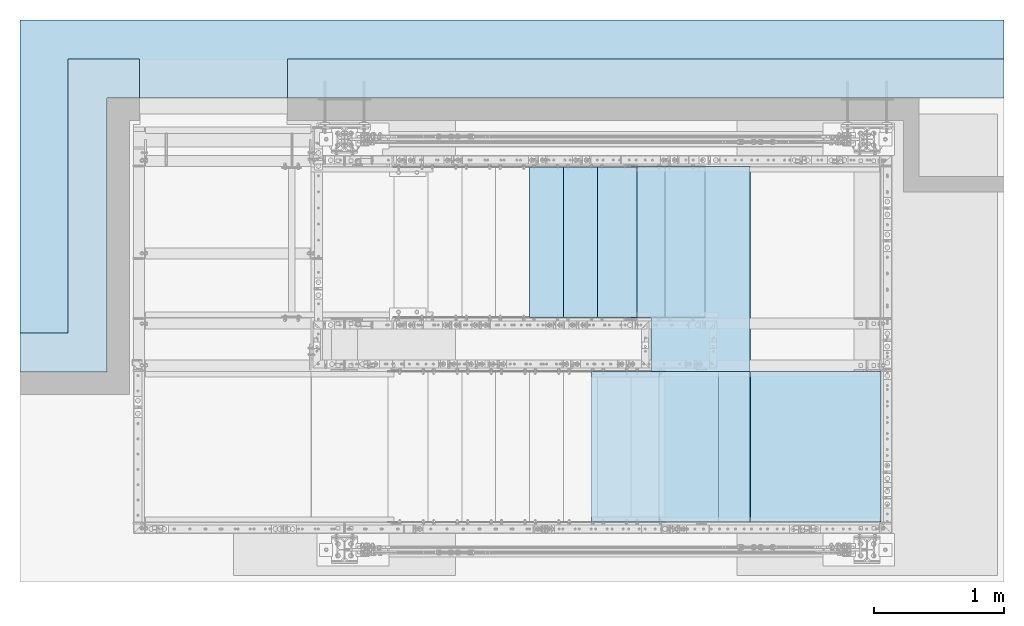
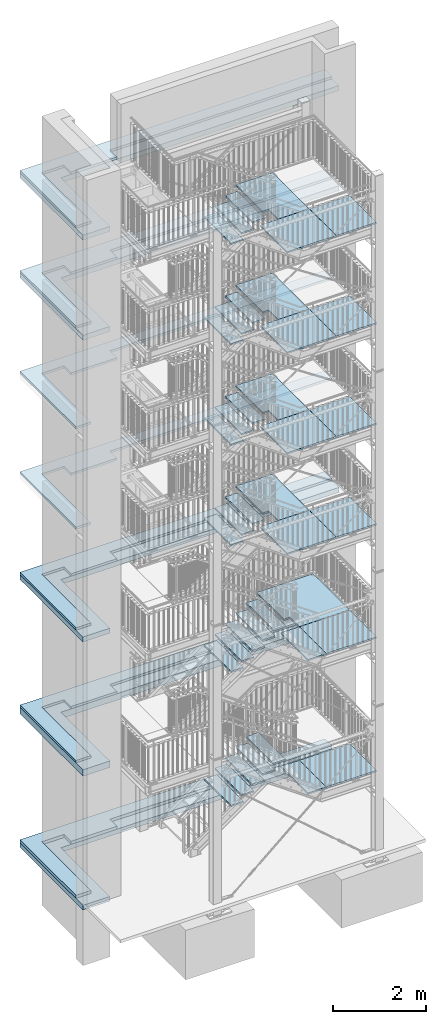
# One storey, part 143 of 821: 39 plates, 12 slabs, 13 openings.
"""IFC2X3 building model written with IfcOpenShell, lengths in millimetres."""

from ifc_helpers import new_model, entity, si_unit, converted_unit, frame, origin, origin_with_axes, place, context, project, spatial, polyline, outline, extrude, material, layer, layer_set, element, save


model = new_model("IFC2X3")

# Units and contexts
model_context = context("Model", 3, precision=1e-09, world=origin_with_axes())
ifc_project = project(units=[si_unit("LENGTHUNIT", "METRE", prefix="MILLI"), si_unit("AREAUNIT", "SQUARE_METRE"), si_unit("VOLUMEUNIT", "CUBIC_METRE"), converted_unit("PLANEANGLEUNIT", "DEGREE", entity("IfcPlaneAngleMeasure", 0.01745329), si_unit("PLANEANGLEUNIT", "RADIAN"), dimensions=[0, 0, 0, 0, 0, 0, 0])], contexts=[model_context])

# Site, building, storey
site_placement = place(None, origin_with_axes())
site = spatial("IfcSite", under=ifc_project, at=site_placement, Name="Cnopf'sche Kinderklinik", CompositionType="ELEMENT")
building_placement = place(site_placement, origin_with_axes())
building = spatial("IfcBuilding", under=site, at=building_placement, Name="Struktur 1", CompositionType="ELEMENT")
storey_placement = place(building_placement, origin_with_axes())
storey = spatial("IfcBuildingStorey", under=building, at=storey_placement, Name="Default Storey", CompositionType="ELEMENT", Elevation=0.0)

# Plates
ifc_material_1 = material(Name="S235JR")
ifc_layer_1 = layer(ifc_material_1, 40.0)
ifc_layer_set_1 = layer_set([ifc_layer_1], Name="S235JR")
plate_1_placement = place(None, frame((6429.213402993, 6726.736971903, 10702.571429), z_axis=(0.0, 0.0, 1.0), x_axis=(0.0, 1.0, 0.0)))
element("IfcPlate", 1, at=plate_1_placement, inside=storey, material=ifc_layer_set_1, Name="Grate_Step#22", ObjectType="Grate_Step#22", context=model_context, shape_type="SweptSolid", body=[
    extrude(outline(polyline([(-577.0, -152.5), (577.0, -152.5), (577.0, 152.5), (-577.0, 152.5), (-577.0, -152.5)])), origin_with_axes(), (0.0, 0.0, 1.0), 40.0),
])
plate_2_placement = place(None, frame((6949.213402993, 6726.736971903, 11077.8571432), z_axis=(0.0, 0.0, 1.0), x_axis=(0.0, 1.0, 0.0)))
element("IfcPlate", 2, at=plate_2_placement, inside=storey, material=ifc_layer_set_1, Name="Grate_Step#36", ObjectType="Grate_Step#36", context=model_context, shape_type="SweptSolid", body=[
    extrude(outline(polyline([(-577.0, -152.5), (577.0, -152.5), (577.0, 152.5), (-577.0, 152.5), (-577.0, -152.5)])), origin_with_axes(), (0.0, 0.0, 1.0), 40.0),
])
plate_3_placement = place(None, frame((6689.213402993, 6726.736971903, 10890.2142861), z_axis=(0.0, 0.0, 1.0), x_axis=(0.0, 1.0, 0.0)))
element("IfcPlate", 3, at=plate_3_placement, inside=storey, material=ifc_layer_set_1, Name="Grate_Step#29", ObjectType="Grate_Step#29", context=model_context, shape_type="SweptSolid", body=[
    extrude(outline(polyline([(-577.0, -152.5), (577.0, -152.5), (577.0, 152.5), (-577.0, 152.5), (-577.0, -152.5)])), origin_with_axes(), (0.0, 0.0, 1.0), 40.0),
])
plate_4_placement = place(None, frame((6429.213402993, 6726.736971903, 8072.0), z_axis=(0.0, 0.0, 1.0), x_axis=(0.0, 1.0, 0.0)))
element("IfcPlate", 4, at=plate_4_placement, inside=storey, material=ifc_layer_set_1, Name="Grate_Step#22", ObjectType="Grate_Step#22", context=model_context, shape_type="SweptSolid", body=[
    extrude(outline(polyline([(-577.0, -152.5), (577.0, -152.5), (577.0, 152.5), (-577.0, 152.5), (-577.0, -152.5)])), origin_with_axes(), (0.0, 0.0, 1.0), 40.0),
])
plate_5_placement = place(None, frame((6689.213402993, 6726.736971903, 8260.0), z_axis=(0.0, 0.0, 1.0), x_axis=(0.0, 1.0, 0.0)))
element("IfcPlate", 5, at=plate_5_placement, inside=storey, material=ifc_layer_set_1, Name="Grate_Step#29", ObjectType="Grate_Step#29", context=model_context, shape_type="SweptSolid", body=[
    extrude(outline(polyline([(-577.0, -152.5), (577.0, -152.5), (577.0, 152.5), (-577.0, 152.5), (-577.0, -152.5)])), origin_with_axes(), (0.0, 0.0, 1.0), 40.0),
])
plate_6_placement = place(None, frame((6949.213402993, 6726.736971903, 8448.0), z_axis=(0.0, 0.0, 1.0), x_axis=(0.0, 1.0, 0.0)))
element("IfcPlate", 6, at=plate_6_placement, inside=storey, material=ifc_layer_set_1, Name="Grate_Step#36", ObjectType="Grate_Step#36", context=model_context, shape_type="SweptSolid", body=[
    extrude(outline(polyline([(-577.0, -152.5), (577.0, -152.5), (577.0, 152.5), (-577.0, 152.5), (-577.0, -152.5)])), origin_with_axes(), (0.0, 0.0, 1.0), 40.0),
])
plate_7_placement = place(None, frame((6429.213402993, 6726.736971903, 13331.857143), z_axis=(0.0, 0.0, 1.0), x_axis=(0.0, 1.0, 0.0)))
element("IfcPlate", 7, at=plate_7_placement, inside=storey, material=ifc_layer_set_1, Name="Grate_Step#22", ObjectType="Grate_Step#22", context=model_context, shape_type="SweptSolid", body=[
    extrude(outline(polyline([(-577.0, -152.5), (577.0, -152.5), (577.0, 152.5), (-577.0, 152.5), (-577.0, -152.5)])), origin_with_axes(), (0.0, 0.0, 1.0), 40.0),
])
plate_8_placement = place(None, frame((6689.213402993, 6726.736971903, 13520.0714287), z_axis=(0.0, 0.0, 1.0), x_axis=(0.0, 1.0, 0.0)))
element("IfcPlate", 8, at=plate_8_placement, inside=storey, material=ifc_layer_set_1, Name="Grate_Step#29", ObjectType="Grate_Step#29", context=model_context, shape_type="SweptSolid", body=[
    extrude(outline(polyline([(-577.0, -152.5), (577.0, -152.5), (577.0, 152.5), (-577.0, 152.5), (-577.0, -152.5)])), origin_with_axes(), (0.0, 0.0, 1.0), 40.0),
])
plate_9_placement = place(None, frame((6949.213402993, 6726.736971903, 13708.2857144), z_axis=(0.0, 0.0, 1.0), x_axis=(0.0, 1.0, 0.0)))
element("IfcPlate", 9, at=plate_9_placement, inside=storey, material=ifc_layer_set_1, Name="Grate_Step#36", ObjectType="Grate_Step#36", context=model_context, shape_type="SweptSolid", body=[
    extrude(outline(polyline([(-577.0, -152.5), (577.0, -152.5), (577.0, 152.5), (-577.0, 152.5), (-577.0, -152.5)])), origin_with_axes(), (0.0, 0.0, 1.0), 40.0),
])
plate_10_placement = place(None, frame((6429.213402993, 6726.736971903, 15962.571429), z_axis=(0.0, 0.0, 1.0), x_axis=(0.0, 1.0, 0.0)))
element("IfcPlate", 10, at=plate_10_placement, inside=storey, material=ifc_layer_set_1, Name="Grate_Step#22", ObjectType="Grate_Step#22", context=model_context, shape_type="SweptSolid", body=[
    extrude(outline(polyline([(-577.0, -152.5), (577.0, -152.5), (577.0, 152.5), (-577.0, 152.5), (-577.0, -152.5)])), origin_with_axes(), (0.0, 0.0, 1.0), 40.0),
])
plate_11_placement = place(None, frame((6689.213402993, 6726.736971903, 16149.7142861), z_axis=(0.0, 0.0, 1.0), x_axis=(0.0, 1.0, 0.0)))
element("IfcPlate", 11, at=plate_11_placement, inside=storey, material=ifc_layer_set_1, Name="Grate_Step#29", ObjectType="Grate_Step#29", context=model_context, shape_type="SweptSolid", body=[
    extrude(outline(polyline([(-577.0, -152.5), (577.0, -152.5), (577.0, 152.5), (-577.0, 152.5), (-577.0, -152.5)])), origin_with_axes(), (0.0, 0.0, 1.0), 40.0),
])
plate_12_placement = place(None, frame((6949.213402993, 6726.736971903, 16336.8571432), z_axis=(0.0, 0.0, 1.0), x_axis=(0.0, 1.0, 0.0)))
element("IfcPlate", 12, at=plate_12_placement, inside=storey, material=ifc_layer_set_1, Name="Grate_Step#36", ObjectType="Grate_Step#36", context=model_context, shape_type="SweptSolid", body=[
    extrude(outline(polyline([(-577.0, -152.5), (577.0, -152.5), (577.0, 152.5), (-577.0, 152.5), (-577.0, -152.5)])), origin_with_axes(), (0.0, 0.0, 1.0), 40.0),
])

# Plate, opening
plate_13_placement = place(None, frame((7576.713402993, 6146.736971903, 5674.8947367), z_axis=(0.0, 0.0, 1.0), x_axis=(1.0, 0.0, 0.0)))
plate_13 = element("IfcPlate", 13, at=plate_13_placement, inside=storey, material=ifc_layer_set_1, Name="TopCoverGrate", ObjectType="TopCoverGrate", context=model_context, shape_type="SweptSolid", body=[
    extrude(outline(polyline([(0.0, -410.0), (1395.0, -410.0), (1395.0, 1160.0), (0.0, 1160.0), (0.0, -410.0)])), origin_with_axes(), (0.0, 0.0, 1.0), 40.0),
])
opening_1_placement = place(plate_13_placement, frame((0.0, 0.0, -0.1), z_axis=(0.0, 0.0, 1.0), x_axis=(-1.0, 0.0, 0.0)))
element("IfcOpeningElement", 14, at=opening_1_placement, cuts=plate_13, ObjectType="Opening", context=model_context, shape_type="SweptSolid", body=[
    extrude(outline(polyline([(-150.001, -0.001), (141.813694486, -0.001), (141.813694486, 522.421449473), (-150.001, 522.421449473), (-150.001, -0.001)])), origin(), (0.0, 0.0, 1.0), 40.2),
])

# Plates
plate_14_placement = place(None, frame((6429.213402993, 6726.736971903, 1255.5263152), z_axis=(0.0, 0.0, 1.0), x_axis=(0.0, 1.0, 0.0)))
element("IfcPlate", 15, at=plate_14_placement, inside=storey, material=ifc_layer_set_1, Name="Grate_Step#29", ObjectType="Grate_Step#29", context=model_context, shape_type="SweptSolid", body=[
    extrude(outline(polyline([(-577.0, -152.5), (577.0, -152.5), (577.0, 152.5), (-577.0, 152.5), (-577.0, -152.5)])), origin_with_axes(), (0.0, 0.0, 1.0), 40.0),
])
plate_15_placement = place(None, frame((6949.213402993, 6726.736971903, 1625.7368416), z_axis=(0.0, 0.0, 1.0), x_axis=(0.0, 1.0, 0.0)))
element("IfcPlate", 16, at=plate_15_placement, inside=storey, material=ifc_layer_set_1, Name="Grate_Step#43", ObjectType="Grate_Step#43", context=model_context, shape_type="SweptSolid", body=[
    extrude(outline(polyline([(-577.0, -152.5), (577.0, -152.5), (577.0, 152.5), (-577.0, 152.5), (-577.0, -152.5)])), origin_with_axes(), (0.0, 0.0, 1.0), 40.0),
])
plate_16_placement = place(None, frame((6689.213402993, 6726.736971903, 4943.7368419), z_axis=(0.0, 0.0, 1.0), x_axis=(0.0, 1.0, 0.0)))
element("IfcPlate", 17, at=plate_16_placement, inside=storey, material=ifc_layer_set_1, Name="Grate_Step#36", ObjectType="Grate_Step#36", context=model_context, shape_type="SweptSolid", body=[
    extrude(outline(polyline([(-577.0, -152.5), (577.0, -152.5), (577.0, 152.5), (-577.0, 152.5), (-577.0, -152.5)])), origin_with_axes(), (0.0, 0.0, 1.0), 40.0),
])
plate_17_placement = place(None, frame((7469.213402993, 6726.736971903, 1995.947368), z_axis=(0.0, 0.0, 1.0), x_axis=(0.0, 1.0, 0.0)))
element("IfcPlate", 18, at=plate_17_placement, inside=storey, material=ifc_layer_set_1, Name="Grate_Step#57", ObjectType="Grate_Step#57", context=model_context, shape_type="SweptSolid", body=[
    extrude(outline(polyline([(-577.0, -152.5), (577.0, -152.5), (577.0, 152.5), (-577.0, 152.5), (-577.0, -152.5)])), origin_with_axes(), (0.0, 0.0, 1.0), 40.0),
])
plate_18_placement = place(None, frame((7209.213402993, 6726.736971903, 5309.3157893), z_axis=(0.0, 0.0, 1.0), x_axis=(0.0, 1.0, 0.0)))
element("IfcPlate", 19, at=plate_18_placement, inside=storey, material=ifc_layer_set_1, Name="Grate_Step#50", ObjectType="Grate_Step#50", context=model_context, shape_type="SweptSolid", body=[
    extrude(outline(polyline([(-577.0, -152.5), (577.0, -152.5), (577.0, 152.5), (-577.0, 152.5), (-577.0, -152.5)])), origin_with_axes(), (0.0, 0.0, 1.0), 40.0),
])
plate_19_placement = place(None, frame((6429.213402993, 6726.736971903, 4760.9473682), z_axis=(0.0, 0.0, 1.0), x_axis=(0.0, 1.0, 0.0)))
element("IfcPlate", 20, at=plate_19_placement, inside=storey, material=ifc_layer_set_1, Name="Grate_Step#29", ObjectType="Grate_Step#29", context=model_context, shape_type="SweptSolid", body=[
    extrude(outline(polyline([(-577.0, -152.5), (577.0, -152.5), (577.0, 152.5), (-577.0, 152.5), (-577.0, -152.5)])), origin_with_axes(), (0.0, 0.0, 1.0), 40.0),
])
plate_20_placement = place(None, frame((6949.213402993, 6726.736971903, 5126.5263156), z_axis=(0.0, 0.0, 1.0), x_axis=(0.0, 1.0, 0.0)))
element("IfcPlate", 21, at=plate_20_placement, inside=storey, material=ifc_layer_set_1, Name="Grate_Step#43", ObjectType="Grate_Step#43", context=model_context, shape_type="SweptSolid", body=[
    extrude(outline(polyline([(-577.0, -152.5), (577.0, -152.5), (577.0, 152.5), (-577.0, 152.5), (-577.0, -152.5)])), origin_with_axes(), (0.0, 0.0, 1.0), 40.0),
])
plate_21_placement = place(None, frame((7469.213402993, 6726.736971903, 5492.105263), z_axis=(0.0, 0.0, 1.0), x_axis=(0.0, 1.0, 0.0)))
element("IfcPlate", 22, at=plate_21_placement, inside=storey, material=ifc_layer_set_1, Name="Grate_Step#57", ObjectType="Grate_Step#57", context=model_context, shape_type="SweptSolid", body=[
    extrude(outline(polyline([(-577.0, -152.5), (577.0, -152.5), (577.0, 152.5), (-577.0, 152.5), (-577.0, -152.5)])), origin_with_axes(), (0.0, 0.0, 1.0), 40.0),
])
plate_22_placement = place(None, frame((6689.213402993, 6726.736971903, 1440.6315784), z_axis=(0.0, 0.0, 1.0), x_axis=(0.0, 1.0, 0.0)))
element("IfcPlate", 23, at=plate_22_placement, inside=storey, material=ifc_layer_set_1, Name="Grate_Step#36", ObjectType="Grate_Step#36", context=model_context, shape_type="SweptSolid", body=[
    extrude(outline(polyline([(-577.0, -152.5), (577.0, -152.5), (577.0, 152.5), (-577.0, 152.5), (-577.0, -152.5)])), origin_with_axes(), (0.0, 0.0, 1.0), 40.0),
])
plate_23_placement = place(None, frame((7209.213402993, 6726.736971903, 1810.8421048), z_axis=(0.0, 0.0, 1.0), x_axis=(0.0, 1.0, 0.0)))
element("IfcPlate", 24, at=plate_23_placement, inside=storey, material=ifc_layer_set_1, Name="Grate_Step#50", ObjectType="Grate_Step#50", context=model_context, shape_type="SweptSolid", body=[
    extrude(outline(polyline([(-577.0, -152.5), (577.0, -152.5), (577.0, 152.5), (-577.0, 152.5), (-577.0, -152.5)])), origin_with_axes(), (0.0, 0.0, 1.0), 40.0),
])
plate_24_placement = place(None, frame((7271.713402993, 5734.736971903, 2221.0526312), z_axis=(0.0, 0.0, -1.0), x_axis=(1.0, 0.0, 0.0)))
element("IfcPlate", 25, at=plate_24_placement, inside=storey, material=ifc_layer_set_1, Name="BottomCoverGrate", ObjectType="BottomCoverGrate", context=model_context, shape_type="SweptSolid", body=[
    extrude(outline(polyline([(453.001, 0.0), (453.001, 1156.0), (0.0, 1156.0), (0.0, 0.0), (453.001, 0.0)])), origin_with_axes(), (0.0, 0.0, 1.0), 40.0),
])
plate_25_placement = place(None, frame((7271.713402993, 5734.736971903, 2221.0526312), z_axis=(0.0, 0.0, -1.0), x_axis=(1.0, 0.0, 0.0)))
element("IfcPlate", 26, at=plate_25_placement, inside=storey, material=ifc_layer_set_1, Name="BottomCoverGrate", ObjectType="BottomCoverGrate", context=model_context, shape_type="SweptSolid", body=[
    extrude(outline(polyline([(455.001, 0.0), (1700.0, 0.0), (1700.0, 1156.0), (455.001, 1156.0), (455.001, 0.0)])), origin_with_axes(), (0.0, 0.0, 1.0), 40.0),
])
plate_26_placement = place(None, frame((7271.713402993, 5734.736971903, 5714.8947367), z_axis=(0.0, 0.0, -1.0), x_axis=(1.0, 0.0, 0.0)))
element("IfcPlate", 27, at=plate_26_placement, inside=storey, material=ifc_layer_set_1, Name="BottomCoverGrate", ObjectType="BottomCoverGrate", context=model_context, shape_type="SweptSolid", body=[
    extrude(outline(polyline([(453.0, 0.0), (453.0, 1156.0), (0.0, 1156.0), (0.0, 0.0), (453.0, 0.0)])), origin_with_axes(), (0.0, 0.0, 1.0), 40.0),
])
plate_27_placement = place(None, frame((7271.713402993, 5734.736971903, 5714.8947367), z_axis=(0.0, 0.0, -1.0), x_axis=(1.0, 0.0, 0.0)))
element("IfcPlate", 28, at=plate_27_placement, inside=storey, material=ifc_layer_set_1, Name="BottomCoverGrate", ObjectType="BottomCoverGrate", context=model_context, shape_type="SweptSolid", body=[
    extrude(outline(polyline([(455.0, 0.0), (1700.0, 0.0), (1700.0, 1156.0), (455.0, 1156.0), (455.0, 0.0)])), origin_with_axes(), (0.0, 0.0, 1.0), 40.0),
])
plate_28_placement = place(None, frame((7056.713402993, 6146.736971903, 8636.0), z_axis=(0.0, 0.0, 1.0), x_axis=(1.0, 0.0, 0.0)))
element("IfcPlate", 29, at=plate_28_placement, inside=storey, material=ifc_layer_set_1, Name="TopCoverGrate", ObjectType="TopCoverGrate", context=model_context, shape_type="SweptSolid", body=[
    extrude(outline(polyline([(913.0, 1160.0), (0.0, 1160.0), (0.0, 0.001), (150.001, 0.001), (150.001, -410.0), (913.0, -410.0), (913.0, 1160.0)])), origin_with_axes(), (0.0, 0.0, 1.0), 40.0),
])
plate_29_placement = place(None, frame((6751.713402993, 5734.736971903, 8676.0), z_axis=(0.0, 0.0, -1.0), x_axis=(1.0, 0.0, 0.0)))
element("IfcPlate", 30, at=plate_29_placement, inside=storey, material=ifc_layer_set_1, Name="BottomCoverGrate", ObjectType="BottomCoverGrate", context=model_context, shape_type="SweptSolid", body=[
    extrude(outline(polyline([(1218.0, 0.0), (1218.0, 1156.0), (0.0, 1156.0), (0.0, 0.0), (1218.0, 0.0)])), origin_with_axes(), (0.0, 0.0, 1.0), 40.0),
])
plate_30_placement = place(None, frame((6751.713402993, 5734.736971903, 8676.0), z_axis=(0.0, 0.0, -1.0), x_axis=(1.0, 0.0, 0.0)))
element("IfcPlate", 31, at=plate_30_placement, inside=storey, material=ifc_layer_set_1, Name="BottomCoverGrate", ObjectType="BottomCoverGrate", context=model_context, shape_type="SweptSolid", body=[
    extrude(outline(polyline([(1220.0, 0.0), (2220.0, 0.0), (2220.0, 1156.0), (1220.0, 1156.0), (1220.0, 0.0)])), origin_with_axes(), (0.0, 0.0, 1.0), 40.0),
])
plate_31_placement = place(None, frame((6751.713402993, 5734.736971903, 11305.5000003), z_axis=(0.0, 0.0, -1.0), x_axis=(1.0, 0.0, 0.0)))
element("IfcPlate", 32, at=plate_31_placement, inside=storey, material=ifc_layer_set_1, Name="BottomCoverGrate", ObjectType="BottomCoverGrate", context=model_context, shape_type="SweptSolid", body=[
    extrude(outline(polyline([(1218.0, 0.0), (1218.0, 1156.0), (0.0, 1156.0), (0.0, 0.0), (1218.0, 0.0)])), origin_with_axes(), (0.0, 0.0, 1.0), 40.0),
])
plate_32_placement = place(None, frame((6751.713402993, 5734.736971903, 11305.5000003), z_axis=(0.0, 0.0, -1.0), x_axis=(1.0, 0.0, 0.0)))
element("IfcPlate", 33, at=plate_32_placement, inside=storey, material=ifc_layer_set_1, Name="BottomCoverGrate", ObjectType="BottomCoverGrate", context=model_context, shape_type="SweptSolid", body=[
    extrude(outline(polyline([(1220.0, 0.0), (2220.0, 0.0), (2220.0, 1156.0), (1220.0, 1156.0), (1220.0, 0.0)])), origin_with_axes(), (0.0, 0.0, 1.0), 40.0),
])
plate_33_placement = place(None, frame((7056.713402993, 6146.736971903, 11265.5000003), z_axis=(0.0, 0.0, 1.0), x_axis=(1.0, 0.0, 0.0)))
element("IfcPlate", 34, at=plate_33_placement, inside=storey, material=ifc_layer_set_1, Name="TopCoverGrate", ObjectType="TopCoverGrate", context=model_context, shape_type="SweptSolid", body=[
    extrude(outline(polyline([(913.0, 1160.0), (0.0, 1160.0), (0.0, 0.001), (150.001, 0.001), (150.001, -410.0), (913.0, -410.0), (913.0, 1160.0)])), origin_with_axes(), (0.0, 0.0, 1.0), 40.0),
])
plate_34_placement = place(None, frame((6751.713402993, 5734.736971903, 13936.5000001), z_axis=(0.0, 0.0, -1.0), x_axis=(1.0, 0.0, 0.0)))
element("IfcPlate", 35, at=plate_34_placement, inside=storey, material=ifc_layer_set_1, Name="BottomCoverGrate", ObjectType="BottomCoverGrate", context=model_context, shape_type="SweptSolid", body=[
    extrude(outline(polyline([(1218.0, 0.0), (1218.0, 1156.0), (0.0, 1156.0), (0.0, 0.0), (1218.0, 0.0)])), origin_with_axes(), (0.0, 0.0, 1.0), 40.0),
])
plate_35_placement = place(None, frame((6751.713402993, 5734.736971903, 13936.5000001), z_axis=(0.0, 0.0, -1.0), x_axis=(1.0, 0.0, 0.0)))
element("IfcPlate", 36, at=plate_35_placement, inside=storey, material=ifc_layer_set_1, Name="BottomCoverGrate", ObjectType="BottomCoverGrate", context=model_context, shape_type="SweptSolid", body=[
    extrude(outline(polyline([(1220.0, 0.0), (2220.0, 0.0), (2220.0, 1156.0), (1220.0, 1156.0), (1220.0, 0.0)])), origin_with_axes(), (0.0, 0.0, 1.0), 40.0),
])
plate_36_placement = place(None, frame((7056.713402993, 6146.736971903, 13896.5000001), z_axis=(0.0, 0.0, 1.0), x_axis=(1.0, 0.0, 0.0)))
element("IfcPlate", 37, at=plate_36_placement, inside=storey, material=ifc_layer_set_1, Name="TopCoverGrate", ObjectType="TopCoverGrate", context=model_context, shape_type="SweptSolid", body=[
    extrude(outline(polyline([(913.0, 1160.0), (0.0, 1160.0), (0.0, 0.001), (150.001, 0.001), (150.001, -410.0), (913.0, -410.0), (913.0, 1160.0)])), origin_with_axes(), (0.0, 0.0, 1.0), 40.0),
])
plate_37_placement = place(None, frame((6751.713402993, 5734.736971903, 16564.0000003), z_axis=(0.0, 0.0, -1.0), x_axis=(1.0, 0.0, 0.0)))
element("IfcPlate", 38, at=plate_37_placement, inside=storey, material=ifc_layer_set_1, Name="BottomCoverGrate", ObjectType="BottomCoverGrate", context=model_context, shape_type="SweptSolid", body=[
    extrude(outline(polyline([(1218.0, 0.0), (1218.0, 1156.0), (0.0, 1156.0), (0.0, 0.0), (1218.0, 0.0)])), origin_with_axes(), (0.0, 0.0, 1.0), 40.0),
])
plate_38_placement = place(None, frame((6751.713402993, 5734.736971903, 16564.0000003), z_axis=(0.0, 0.0, -1.0), x_axis=(1.0, 0.0, 0.0)))
element("IfcPlate", 39, at=plate_38_placement, inside=storey, material=ifc_layer_set_1, Name="BottomCoverGrate", ObjectType="BottomCoverGrate", context=model_context, shape_type="SweptSolid", body=[
    extrude(outline(polyline([(1220.0, 0.0), (2220.0, 0.0), (2220.0, 1156.0), (1220.0, 1156.0), (1220.0, 0.0)])), origin_with_axes(), (0.0, 0.0, 1.0), 40.0),
])
plate_39_placement = place(None, frame((7056.713402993, 6146.736971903, 16524.0000003), z_axis=(0.0, 0.0, 1.0), x_axis=(1.0, 0.0, 0.0)))
element("IfcPlate", 40, at=plate_39_placement, inside=storey, material=ifc_layer_set_1, Name="TopCoverGrate", ObjectType="TopCoverGrate", context=model_context, shape_type="SweptSolid", body=[
    extrude(outline(polyline([(913.0, 1160.0), (0.0, 1160.0), (0.0, 0.001), (150.001, 0.001), (150.001, -410.0), (913.0, -410.0), (913.0, 1160.0)])), origin_with_axes(), (0.0, 0.0, 1.0), 40.0),
])

# Slab, opening
ifc_material_2 = material(Name="C25/30")
ifc_layer_2 = layer(ifc_material_2, 130.0)
ifc_layer_set_2 = layer_set([ifc_layer_2], Name="C25/30")
slab_1_placement = place(None, frame((6142.06017303, 7081.736471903, 15084.0), z_axis=(0.0, 0.0, 1.0), x_axis=(1.0, 0.0, 0.0)))
slab_1 = element("IfcSlab", 41, at=slab_1_placement, inside=storey, material=ifc_layer_set_2, Name="-", ObjectType="-", context=model_context, shape_type="SweptSolid", body=[
    extrude(outline(polyline([(-3774.653229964, -1350.0005), (3774.653229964, -1350.0005), (3774.653229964, 1350.0005), (-3774.653229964, 1350.0005), (-3774.653229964, -1350.0005)])), origin_with_axes(), (0.0, 0.0, 1.0), 130.0),
])
opening_2_placement = place(slab_1_placement, frame((0.0, 0.0, -0.1), z_axis=(0.0, 0.0, 1.0), x_axis=(1.0, 0.0, 0.0)))
element("IfcOpeningElement", 42, at=opening_2_placement, cuts=slab_1, ObjectType="Opening", context=model_context, shape_type="SweptSolid", body=[
    extrude(outline(polyline([(-3107.347770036, -1859.56610814), (4389.557341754, -1859.56610814), (4389.557341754, 750.0025), (-3107.347770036, 750.0025), (-3107.347770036, -1859.56610814)])), origin(), (0.0, 0.0, 1.0), 130.2),
])

slab_2_placement = place(None, frame((6142.06017303, 7081.736471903, 17704.0), z_axis=(0.0, 0.0, 1.0), x_axis=(1.0, 0.0, 0.0)))
slab_2 = element("IfcSlab", 43, at=slab_2_placement, inside=storey, material=ifc_layer_set_2, Name="-", ObjectType="-", context=model_context, shape_type="SweptSolid", body=[
    extrude(outline(polyline([(-3774.653229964, -1350.0005), (3774.653229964, -1350.0005), (3774.653229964, 1350.0005), (-3774.653229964, 1350.0005), (-3774.653229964, -1350.0005)])), origin_with_axes(), (0.0, 0.0, 1.0), 130.0),
])
opening_3_placement = place(slab_2_placement, frame((0.0, 0.0, -0.1), z_axis=(0.0, 0.0, 1.0), x_axis=(1.0, 0.0, 0.0)))
element("IfcOpeningElement", 44, at=opening_3_placement, cuts=slab_2, ObjectType="Opening", context=model_context, shape_type="SweptSolid", body=[
    extrude(outline(polyline([(-3107.347770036, -1859.56610814), (4389.557341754, -1859.56610814), (4389.557341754, 750.0025), (-3107.347770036, 750.0025), (-3107.347770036, -1859.56610814)])), origin(), (0.0, 0.0, 1.0), 130.2),
])

ifc_layer_3 = layer(ifc_material_2, 60.0)
ifc_layer_set_3 = layer_set([ifc_layer_3], Name="C25/30")
slab_3_placement = place(None, frame((6142.06017303, 7231.736471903, 17834.0), z_axis=(0.0, 0.0, 1.0), x_axis=(1.0, 0.0, 0.0)))
slab_3 = element("IfcSlab", 45, at=slab_3_placement, inside=storey, material=ifc_layer_set_3, Name="-", ObjectType="-", context=model_context, shape_type="SweptSolid", body=[
    extrude(outline(polyline([(-3774.653229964, -1200.0005), (3774.653229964, -1200.0005), (3774.653229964, 1200.0005), (-3774.653229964, 1200.0005), (-3774.653229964, -1200.0005)])), origin_with_axes(), (0.0, 0.0, 1.0), 60.0),
])
opening_4_placement = place(slab_3_placement, frame((0.0, 0.0, -0.1), z_axis=(0.0, 0.0, 1.0), x_axis=(1.0, 0.0, 0.0)))
element("IfcOpeningElement", 46, at=opening_4_placement, cuts=slab_3, ObjectType="Opening", context=model_context, shape_type="SweptSolid", body=[
    extrude(outline(polyline([(4245.822175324, -1514.534847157), (4245.822175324, 900.0015), (-1722.347770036, 900.0015), (-1722.347770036, 600.0025), (-2857.34677004, 600.0025), (-2857.34777004, 900.0015), (-3407.346770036, 900.0015), (-3407.346770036, -1707.828193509), (4245.822175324, -1514.534847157)])), origin(), (0.0, 0.0, 1.0), 60.2),
])

ifc_layer_4 = layer(ifc_material_2, 170.0)
ifc_layer_set_4 = layer_set([ifc_layer_4], Name="C25/30")
slab_4_placement = place(None, frame((6142.06017303, 7081.736471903, 3677.0), z_axis=(0.0, 0.0, 1.0), x_axis=(1.0, 0.0, 0.0)))
slab_4 = element("IfcSlab", 47, at=slab_4_placement, inside=storey, material=ifc_layer_set_4, Name="-", ObjectType="-", context=model_context, shape_type="SweptSolid", body=[
    extrude(outline(polyline([(-3774.653229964, -1350.0005), (3774.653229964, -1350.0005), (3774.653229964, 1350.0005), (-3774.653229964, 1350.0005), (-3774.653229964, -1350.0005)])), origin_with_axes(), (0.0, 0.0, 1.0), 170.0),
])
opening_5_placement = place(slab_4_placement, frame((0.0, 0.0, -0.1), z_axis=(0.0, 0.0, 1.0), x_axis=(1.0, 0.0, 0.0)))
element("IfcOpeningElement", 48, at=opening_5_placement, cuts=slab_4, ObjectType="Opening", context=model_context, shape_type="SweptSolid", body=[
    extrude(outline(polyline([(-3107.347770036, -1859.56610814), (4389.557341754, -1859.56610814), (4389.557341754, 750.0025), (-3107.347770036, 750.0025), (-3107.347770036, -1859.56610814)])), origin(), (0.0, 0.0, 1.0), 170.2),
])

ifc_layer_5 = layer(ifc_material_2, 120.0)
ifc_layer_set_5 = layer_set([ifc_layer_5], Name="C25/30")
slab_5_placement = place(None, frame((6142.06017303, 7081.736471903, 180.0), z_axis=(0.0, 0.0, 1.0), x_axis=(1.0, 0.0, 0.0)))
slab_5 = element("IfcSlab", 49, at=slab_5_placement, inside=storey, material=ifc_layer_set_5, Name="-", ObjectType="-", context=model_context, shape_type="SweptSolid", body=[
    extrude(outline(polyline([(-3774.653229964, -1350.0005), (3774.653229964, -1350.0005), (3774.653229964, 1350.0005), (-3774.653229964, 1350.0005), (-3774.653229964, -1350.0005)])), origin_with_axes(), (0.0, 0.0, 1.0), 120.0),
])
opening_6_placement = place(slab_5_placement, frame((0.0, 0.0, -0.1), z_axis=(0.0, 0.0, 1.0), x_axis=(1.0, 0.0, 0.0)))
element("IfcOpeningElement", 50, at=opening_6_placement, cuts=slab_5, ObjectType="Opening", context=model_context, shape_type="SweptSolid", body=[
    extrude(outline(polyline([(-3107.347770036, -1859.56610814), (4389.557341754, -1859.56610814), (4389.557341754, 750.0025), (-3107.347770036, 750.0025), (-3107.347770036, -1859.56610814)])), origin(), (0.0, 0.0, 1.0), 120.2),
])

slab_6_placement = place(None, frame((6142.06017303, 7231.736471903, 12579.0), z_axis=(0.0, 0.0, 1.0), x_axis=(1.0, 0.0, 0.0)))
slab_6 = element("IfcSlab", 51, at=slab_6_placement, inside=storey, material=ifc_layer_set_3, Name="-", ObjectType="-", context=model_context, shape_type="SweptSolid", body=[
    extrude(outline(polyline([(-3774.653229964, -1200.0005), (3774.653229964, -1200.0005), (3774.653229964, 1200.0005), (-3774.653229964, 1200.0005), (-3774.653229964, -1200.0005)])), origin_with_axes(), (0.0, 0.0, 1.0), 60.0),
])
opening_7_placement = place(slab_6_placement, frame((0.0, 0.0, -0.1), z_axis=(0.0, 0.0, 1.0), x_axis=(1.0, 0.0, 0.0)))
element("IfcOpeningElement", 52, at=opening_7_placement, cuts=slab_6, ObjectType="Opening", context=model_context, shape_type="SweptSolid", body=[
    extrude(outline(polyline([(4245.822175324, -1514.534847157), (4245.822175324, 900.0015), (-1722.351770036, 900.0015), (-1722.351770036, 600.0025), (-2857.344770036, 600.0025), (-2857.344770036, 900.0015), (-3407.346770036, 900.0015), (-3407.346770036, -1707.828193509), (4245.822175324, -1514.534847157)])), origin(), (0.0, 0.0, 1.0), 60.2),
])

slab_7_placement = place(None, frame((6142.06017303, 7231.736471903, 9952.0), z_axis=(0.0, 0.0, 1.0), x_axis=(1.0, 0.0, 0.0)))
slab_7 = element("IfcSlab", 53, at=slab_7_placement, inside=storey, material=ifc_layer_set_3, Name="-", ObjectType="-", context=model_context, shape_type="SweptSolid", body=[
    extrude(outline(polyline([(-3774.653229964, -1200.0005), (3774.653229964, -1200.0005), (3774.653229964, 1200.0005), (-3774.653229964, 1200.0005), (-3774.653229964, -1200.0005)])), origin_with_axes(), (0.0, 0.0, 1.0), 60.0),
])
opening_8_placement = place(slab_7_placement, frame((0.0, 0.0, -0.1), z_axis=(0.0, 0.0, 1.0), x_axis=(1.0, 0.0, 0.0)))
element("IfcOpeningElement", 54, at=opening_8_placement, cuts=slab_7, ObjectType="Opening", context=model_context, shape_type="SweptSolid", body=[
    extrude(outline(polyline([(4245.822175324, -1514.534847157), (4245.822175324, 900.0015), (-1722.348770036, 900.0015), (-1722.348770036, 600.0025), (-2857.345770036, 600.0025), (-2857.345770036, 900.0015), (-3407.346770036, 900.0015), (-3407.346770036, -1707.828193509), (4245.822175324, -1514.534847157)])), origin(), (0.0, 0.0, 1.0), 60.2),
])

slab_8_placement = place(None, frame((6142.06017303, 7231.736471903, 7320.0), z_axis=(0.0, 0.0, 1.0), x_axis=(1.0, 0.0, 0.0)))
slab_8 = element("IfcSlab", 55, at=slab_8_placement, inside=storey, material=ifc_layer_set_3, Name="-", ObjectType="-", context=model_context, shape_type="SweptSolid", body=[
    extrude(outline(polyline([(-3774.653229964, -1200.0005), (3774.653229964, -1200.0005), (3774.653229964, 1200.0005), (-3774.653229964, 1200.0005), (-3774.653229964, -1200.0005)])), origin_with_axes(), (0.0, 0.0, 1.0), 60.0),
])
opening_9_placement = place(slab_8_placement, frame((0.0, 0.0, -0.1), z_axis=(0.0, 0.0, 1.0), x_axis=(1.0, 0.0, 0.0)))
element("IfcOpeningElement", 56, at=opening_9_placement, cuts=slab_8, ObjectType="Opening", context=model_context, shape_type="SweptSolid", body=[
    extrude(outline(polyline([(4245.822175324, -1514.534847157), (4245.822175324, 900.0015), (-1722.350770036, 900.0015), (-1722.350770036, 600.0025), (-2857.346770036, 600.0025), (-2857.346770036, 900.0015), (-3407.346770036, 900.0015), (-3407.346770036, -1707.828193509), (4245.822175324, -1514.534847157)])), origin(), (0.0, 0.0, 1.0), 60.2),
])

slab_9_placement = place(None, frame((6142.06017303, 7231.736471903, 3847.0), z_axis=(0.0, 0.0, 1.0), x_axis=(1.0, 0.0, 0.0)))
slab_9 = element("IfcSlab", 57, at=slab_9_placement, inside=storey, material=ifc_layer_set_3, Name="-", ObjectType="-", context=model_context, shape_type="SweptSolid", body=[
    extrude(outline(polyline([(-3774.653229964, -1200.0005), (3774.653229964, -1200.0005), (3774.653229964, 1200.0005), (-3774.653229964, 1200.0005), (-3774.653229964, -1200.0005)])), origin_with_axes(), (0.0, 0.0, 1.0), 60.0),
])
opening_10_placement = place(slab_9_placement, frame((0.0, 0.0, -0.1), z_axis=(0.0, 0.0, 1.0), x_axis=(1.0, 0.0, 0.0)))
element("IfcOpeningElement", 58, at=opening_10_placement, cuts=slab_9, ObjectType="Opening", context=model_context, shape_type="SweptSolid", body=[
    extrude(outline(polyline([(4245.822175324, -1514.534847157), (4245.822175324, 900.0015), (-1722.349770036, 900.0015), (-1722.349770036, 600.0025), (-2857.345770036, 600.0025), (-2857.345770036, 900.0015), (-3407.346770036, 900.0015), (-3407.346770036, -1707.828193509), (4245.822175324, -1514.534847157)])), origin(), (0.0, 0.0, 1.0), 60.2),
])

ifc_layer_6 = layer(ifc_material_2, 80.0)
ifc_layer_set_6 = layer_set([ifc_layer_6], Name="C25/30")
slab_10_placement = place(None, frame((6142.06017303, 7231.736471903, 300.0), z_axis=(0.0, 0.0, 1.0), x_axis=(1.0, 0.0, 0.0)))
slab_10 = element("IfcSlab", 59, at=slab_10_placement, inside=storey, material=ifc_layer_set_6, Name="-", ObjectType="-", context=model_context, shape_type="SweptSolid", body=[
    extrude(outline(polyline([(-3774.653229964, -1200.0005), (3774.653229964, -1200.0005), (3774.653229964, 1200.0005), (-3774.653229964, 1200.0005), (-3774.653229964, -1200.0005)])), origin_with_axes(), (0.0, 0.0, 1.0), 80.0),
])
opening_11_placement = place(slab_10_placement, frame((0.0, 0.0, -0.1), z_axis=(0.0, 0.0, 1.0), x_axis=(1.0, 0.0, 0.0)))
element("IfcOpeningElement", 60, at=opening_11_placement, cuts=slab_10, ObjectType="Opening", context=model_context, shape_type="SweptSolid", body=[
    extrude(outline(polyline([(4245.822175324, -1514.534847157), (4245.822175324, 900.0015), (-1722.348770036, 900.0015), (-1722.348770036, 600.0025), (-2857.346770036, 600.0025), (-2857.346770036, 900.0015), (-3407.346770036, 900.0015), (-3407.346770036, -1707.828193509), (4245.822175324, -1514.534847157)])), origin(), (0.0, 0.0, 1.0), 80.2),
])

slab_11_placement = place(None, frame((6142.06017303, 7231.736471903, 15214.0), z_axis=(0.0, 0.0, 1.0), x_axis=(1.0, 0.0, 0.0)))
slab_11 = element("IfcSlab", 61, at=slab_11_placement, inside=storey, material=ifc_layer_set_3, Name="-", ObjectType="-", context=model_context, shape_type="SweptSolid", body=[
    extrude(outline(polyline([(-3774.653229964, -1200.0005), (3774.653229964, -1200.0005), (3774.653229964, 1200.0005), (-3774.653229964, 1200.0005), (-3774.653229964, -1200.0005)])), origin_with_axes(), (0.0, 0.0, 1.0), 60.0),
])
opening_12_placement = place(slab_11_placement, frame((0.0, 0.0, -0.1), z_axis=(0.0, 0.0, 1.0), x_axis=(1.0, 0.0, 0.0)))
element("IfcOpeningElement", 62, at=opening_12_placement, cuts=slab_11, ObjectType="Opening", context=model_context, shape_type="SweptSolid", body=[
    extrude(outline(polyline([(4245.822175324, -1514.534847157), (4245.822175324, 900.0015), (-1722.347770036, 900.0015), (-1722.347770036, 600.0025), (-2857.34677004, 600.0025), (-2857.34777004, 900.0015), (-3407.346770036, 900.0015), (-3407.346770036, -1707.828193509), (4245.822175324, -1514.534847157)])), origin(), (0.0, 0.0, 1.0), 60.2),
])

slab_12_placement = place(None, frame((6142.06017303, 7081.736471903, 7190.0), z_axis=(0.0, 0.0, 1.0), x_axis=(1.0, 0.0, 0.0)))
slab_12 = element("IfcSlab", 63, at=slab_12_placement, inside=storey, material=ifc_layer_set_2, Name="-", ObjectType="-", context=model_context, shape_type="SweptSolid", body=[
    extrude(outline(polyline([(-3774.653229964, -1350.0005), (3774.653229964, -1350.0005), (3774.653229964, 1350.0005), (-3774.653229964, 1350.0005), (-3774.653229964, -1350.0005)])), origin_with_axes(), (0.0, 0.0, 1.0), 130.0),
])
opening_13_placement = place(slab_12_placement, frame((0.0, 0.0, -0.1), z_axis=(0.0, 0.0, 1.0), x_axis=(1.0, 0.0, 0.0)))
element("IfcOpeningElement", 64, at=opening_13_placement, cuts=slab_12, ObjectType="Opening", context=model_context, shape_type="SweptSolid", body=[
    extrude(outline(polyline([(-3107.347770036, -1859.56610814), (4389.557341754, -1859.56610814), (4389.557341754, 750.0025), (-3107.347770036, 750.0025), (-3107.347770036, -1859.56610814)])), origin(), (0.0, 0.0, 1.0), 130.2),
])

save(model, "model.ifc")
